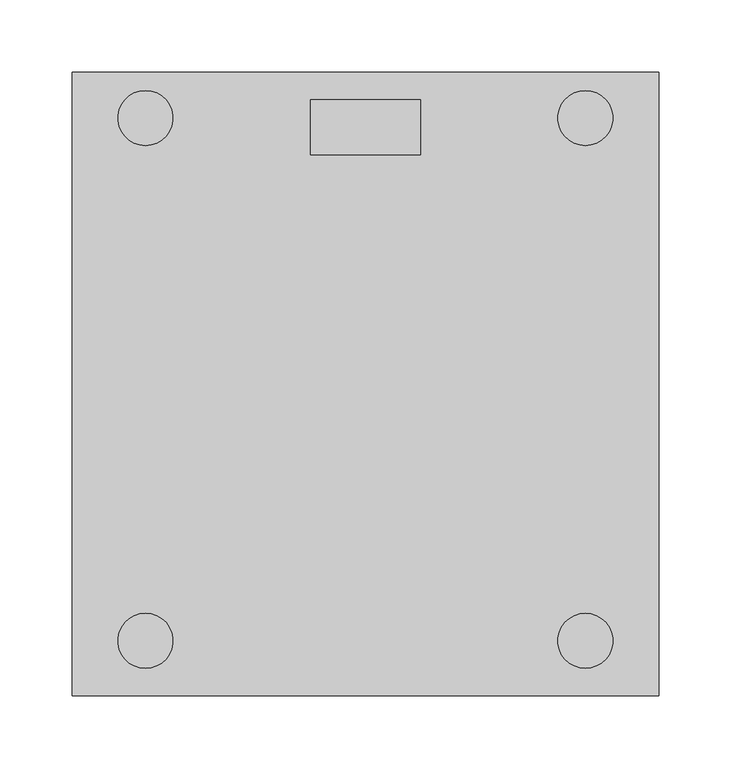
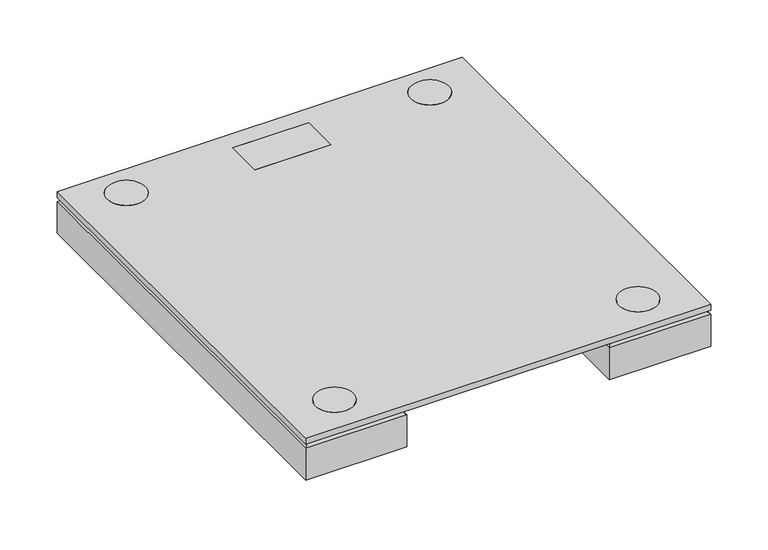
"""IFC4 building model written with IfcOpenShell, lengths in millimetres: proxy geometry, Balança de Banheiro : Bathroom scales."""

from ifc_helpers import new_model, si_unit, point, frame, frame_2d, origin, origin_with_axes, place, context, project, spatial, polyline, circle_curve, trimmed, segment, composite_curve, outline, extrude, faceted_brep, source, transform, mapped, element, save


def specialty_equipment_e6a92e30(model_context):
    return source(origin(), model_context, "Body", "SolidModel", [
        extrude(outline(composite_curve([segment(trimmed(circle_curve(frame_2d((-152.4, 184.15)), 19.05), [point((-152.4, 203.2))], [point((-152.4, 165.1))], False, "CARTESIAN"), True, "CONTINUOUS"), segment(trimmed(circle_curve(frame_2d((-152.4, 184.15)), 19.05), [point((-152.4, 165.1))], [point((-152.4, 203.2))], False, "CARTESIAN"), True, "CONTINUOUS")], self_intersect=False)), frame((0.0, 0.0, 50.8), z_axis=(0.0, 0.0, 1.0), x_axis=(1.0, 0.0, 0.0)), (0.0, 0.0, 1.0), 6.35),
        extrude(outline(composite_curve([segment(trimmed(circle_curve(frame_2d((152.4, 184.15)), 19.05), [point((152.4, 203.2))], [point((152.4, 165.1))], False, "CARTESIAN"), True, "CONTINUOUS"), segment(trimmed(circle_curve(frame_2d((152.4, 184.15)), 19.05), [point((152.4, 165.1))], [point((152.4, 203.2))], False, "CARTESIAN"), True, "CONTINUOUS")], self_intersect=False)), frame((0.0, 0.0, 50.8), z_axis=(0.0, 0.0, 1.0), x_axis=(1.0, 0.0, 0.0)), (0.0, 0.0, 1.0), 6.35),
        extrude(outline(composite_curve([segment(trimmed(circle_curve(frame_2d((152.4, -177.8)), 19.05), [point((152.4, -158.75))], [point((152.4, -196.85))], False, "CARTESIAN"), True, "CONTINUOUS"), segment(trimmed(circle_curve(frame_2d((152.4, -177.8)), 19.05), [point((152.4, -196.85))], [point((152.4, -158.75))], False, "CARTESIAN"), True, "CONTINUOUS")], self_intersect=False)), frame((0.0, 0.0, 50.8), z_axis=(0.0, 0.0, 1.0), x_axis=(1.0, 0.0, 0.0)), (0.0, 0.0, 1.0), 6.35),
        extrude(outline(composite_curve([segment(trimmed(circle_curve(frame_2d((-152.4, -177.8)), 19.05), [point((-152.4, -158.75))], [point((-152.4, -196.85))], False, "CARTESIAN"), True, "CONTINUOUS"), segment(trimmed(circle_curve(frame_2d((-152.4, -177.8)), 19.05), [point((-152.4, -196.85))], [point((-152.4, -158.75))], False, "CARTESIAN"), True, "CONTINUOUS")], self_intersect=False)), frame((0.0, 0.0, 50.8), z_axis=(0.0, 0.0, 1.0), x_axis=(1.0, 0.0, 0.0)), (0.0, 0.0, 1.0), 6.35),
        extrude(outline(polyline([(38.1, 196.85), (38.1, 158.75), (-38.1, 158.75), (-38.1, 196.85), (38.1, 196.85)])), frame((0.0, 0.0, 50.8), z_axis=(0.0, 0.0, 1.0), x_axis=(1.0, 0.0, 0.0)), (0.0, 0.0, 1.0), 6.35),
        extrude(outline(polyline([(203.2, 215.9), (203.2, -215.9), (-203.2, -215.9), (-203.2, 215.9), (203.2, 215.9)]), holes=[composite_curve([segment(trimmed(circle_curve(frame_2d((-152.4, 184.15)), 19.05), [point((-152.4, 203.2))], [point((-152.4, 165.1))], True, "CARTESIAN"), True, "CONTINUOUS"), segment(trimmed(circle_curve(frame_2d((-152.4, 184.15)), 19.05), [point((-152.4, 165.1))], [point((-152.4, 203.2))], True, "CARTESIAN"), True, "CONTINUOUS")], self_intersect=False), composite_curve([segment(trimmed(circle_curve(frame_2d((152.4, 184.15)), 19.05), [point((152.4, 203.2))], [point((152.4, 165.1))], True, "CARTESIAN"), True, "CONTINUOUS"), segment(trimmed(circle_curve(frame_2d((152.4, 184.15)), 19.05), [point((152.4, 165.1))], [point((152.4, 203.2))], True, "CARTESIAN"), True, "CONTINUOUS")], self_intersect=False), composite_curve([segment(trimmed(circle_curve(frame_2d((152.4, -177.8)), 19.05), [point((152.4, -158.75))], [point((152.4, -196.85))], True, "CARTESIAN"), True, "CONTINUOUS"), segment(trimmed(circle_curve(frame_2d((152.4, -177.8)), 19.05), [point((152.4, -196.85))], [point((152.4, -158.75))], True, "CARTESIAN"), True, "CONTINUOUS")], self_intersect=False), composite_curve([segment(trimmed(circle_curve(frame_2d((-152.4, -177.8)), 19.05), [point((-152.4, -158.75))], [point((-152.4, -196.85))], True, "CARTESIAN"), True, "CONTINUOUS"), segment(trimmed(circle_curve(frame_2d((-152.4, -177.8)), 19.05), [point((-152.4, -196.85))], [point((-152.4, -158.75))], True, "CARTESIAN"), True, "CONTINUOUS")], self_intersect=False), polyline([(38.1, 196.85), (-38.1, 196.85), (-38.1, 158.75), (38.1, 158.75), (38.1, 196.85)])]), frame((0.0, 0.0, 50.8), z_axis=(0.0, 0.0, 1.0), x_axis=(1.0, 0.0, 0.0)), (0.0, 0.0, 1.0), 6.35),
        extrude(outline(composite_curve([segment(trimmed(circle_curve(frame_2d((-152.4, -177.8)), 19.05), [point((-171.45, -177.8))], [point((-133.35, -177.8))], False, "CARTESIAN"), True, "CONTINUOUS"), segment(trimmed(circle_curve(frame_2d((-152.4, -177.8)), 19.05), [point((-133.35, -177.8))], [point((-171.45, -177.8))], False, "CARTESIAN"), True, "CONTINUOUS")], self_intersect=False)), origin_with_axes(), (0.0, 0.0, 1.0), 12.7),
        extrude(outline(composite_curve([segment(trimmed(circle_curve(frame_2d((152.4, -177.8)), 19.05), [point((133.35, -177.8))], [point((171.45, -177.8))], False, "CARTESIAN"), True, "CONTINUOUS"), segment(trimmed(circle_curve(frame_2d((152.4, -177.8)), 19.05), [point((171.45, -177.8))], [point((133.35, -177.8))], False, "CARTESIAN"), True, "CONTINUOUS")], self_intersect=False)), origin_with_axes(), (0.0, 0.0, 1.0), 12.7),
        extrude(outline(composite_curve([segment(trimmed(circle_curve(frame_2d((-152.4, 184.15)), 19.05), [point((-171.45, 184.15))], [point((-133.35, 184.15))], False, "CARTESIAN"), True, "CONTINUOUS"), segment(trimmed(circle_curve(frame_2d((-152.4, 184.15)), 19.05), [point((-133.35, 184.15))], [point((-171.45, 184.15))], False, "CARTESIAN"), True, "CONTINUOUS")], self_intersect=False)), origin_with_axes(), (0.0, 0.0, 1.0), 12.7),
        extrude(outline(composite_curve([segment(trimmed(circle_curve(frame_2d((152.4, 184.15)), 19.05), [point((133.35, 184.15))], [point((171.45, 184.15))], False, "CARTESIAN"), True, "CONTINUOUS"), segment(trimmed(circle_curve(frame_2d((152.4, 184.15)), 19.05), [point((171.45, 184.15))], [point((133.35, 184.15))], False, "CARTESIAN"), True, "CONTINUOUS")], self_intersect=False)), origin_with_axes(), (0.0, 0.0, 1.0), 12.7),
        faceted_brep([(-198.7872301, 211.4872301, 50.8), (-198.7872301, -211.4872301, 50.8), (-106.0127699, -211.4872301, 50.8), (-106.0127699, -144.1127699, 50.8), (-156.8127699, -144.1127699, 50.8), (-156.8127699, 156.8127699, 50.8), (-52.7372301, 156.8127699, 50.8), (-52.7372301, 144.1127699, 50.8), (52.7372301, 144.1127699, 50.8), (52.7372301, 156.8127699, 50.8), (156.8127699, 156.8127699, 50.8), (156.8127699, -144.1127699, 50.8), (106.0127699, -144.1127699, 50.8), (106.0127699, -211.4872301, 50.8), (198.7872301, -211.4872301, 50.8), (198.7872301, 211.4872301, 50.8), (203.2, 215.9, 12.7), (203.2, -215.9, 12.7), (101.6, -215.9, 12.7), (101.6, -139.7, 12.7), (152.4, -139.7, 12.7), (152.4, 152.4, 12.7), (57.15, 152.4, 12.7), (57.15, 139.7, 12.7), (-57.15, 139.7, 12.7), (-57.15, 152.4, 12.7), (-152.4, 152.4, 12.7), (-152.4, -139.7, 12.7), (-101.6, -139.7, 12.7), (-101.6, -215.9, 12.7), (-203.2, -215.9, 12.7), (-203.2, 215.9, 12.7), (-203.2, 215.9, 46.3872301), (203.2, 215.9, 46.3872301), (-203.2, -215.9, 46.3872301), (-101.6, -215.9, 46.3872301), (-101.6, -139.7, 46.3872301), (-152.4, -139.7, 46.3872301), (-152.4, 152.4, 46.3872301), (-57.15, 152.4, 46.3872301), (-57.15, 139.7, 46.3872301), (57.15, 139.7, 46.3872301), (57.15, 152.4, 46.3872301), (152.4, 152.4, 46.3872301), (152.4, -139.7, 46.3872301), (101.6, -139.7, 46.3872301), (101.6, -215.9, 46.3872301), (203.2, -215.9, 46.3872301)], [[[0, 1, 2, 3, 4, 5, 6, 7, 8, 9, 10, 11, 12, 13, 14, 15]], [[16, 17, 18, 19, 20, 21, 22, 23, 24, 25, 26, 27, 28, 29, 30, 31]], [[16, 31, 32, 33]], [[31, 30, 34, 32]], [[30, 29, 35, 34]], [[29, 28, 36, 35]], [[28, 27, 37, 36]], [[27, 26, 38, 37]], [[26, 25, 39, 38]], [[25, 24, 40, 39]], [[24, 23, 41, 40]], [[23, 22, 42, 41]], [[22, 21, 43, 42]], [[21, 20, 44, 43]], [[20, 19, 45, 44]], [[19, 18, 46, 45]], [[18, 17, 47, 46]], [[17, 16, 33, 47]], [[0, 32, 34, 1]], [[32, 0, 15, 33]], [[33, 15, 14, 47]], [[47, 14, 13, 46]], [[46, 13, 12, 45]], [[45, 12, 11, 44]], [[44, 11, 10, 43]], [[43, 10, 9, 42]], [[42, 9, 8, 41]], [[41, 8, 7, 40]], [[40, 7, 6, 39]], [[39, 6, 5, 38]], [[38, 5, 4, 37]], [[37, 4, 3, 36]], [[36, 3, 2, 35]], [[1, 34, 35, 2]]]),
    ])


if __name__ == "__main__":
    model = new_model("IFC4")
    model_context = context("Model", 3, world=origin())
    ifc_project = project(units=[si_unit("LENGTHUNIT", "METRE", prefix="MILLI")], contexts=[model_context])
    site = spatial("IfcSite", under=ifc_project)
    building = spatial("IfcBuilding", under=site)
    placement = place(None, origin())
    specialty_equipment_shape = specialty_equipment_e6a92e30(model_context)
    element("IfcBuildingElementProxy", 1, Name="Balança de Banheiro : Bathroom scales", ObjectType="Balança de Banheiro : Bathroom scales", at=placement, inside=building, context=model_context, shape_type="MappedRepresentation", body=[
        mapped(specialty_equipment_shape, transform((0.0, 0.0, 0.0), x_axis=(1.0, 0.0, 0.0), y_axis=(0.0, 1.0, 0.0), z_axis=(0.0, 0.0, 1.0))),
    ])
    save(model, "model.ifc")
